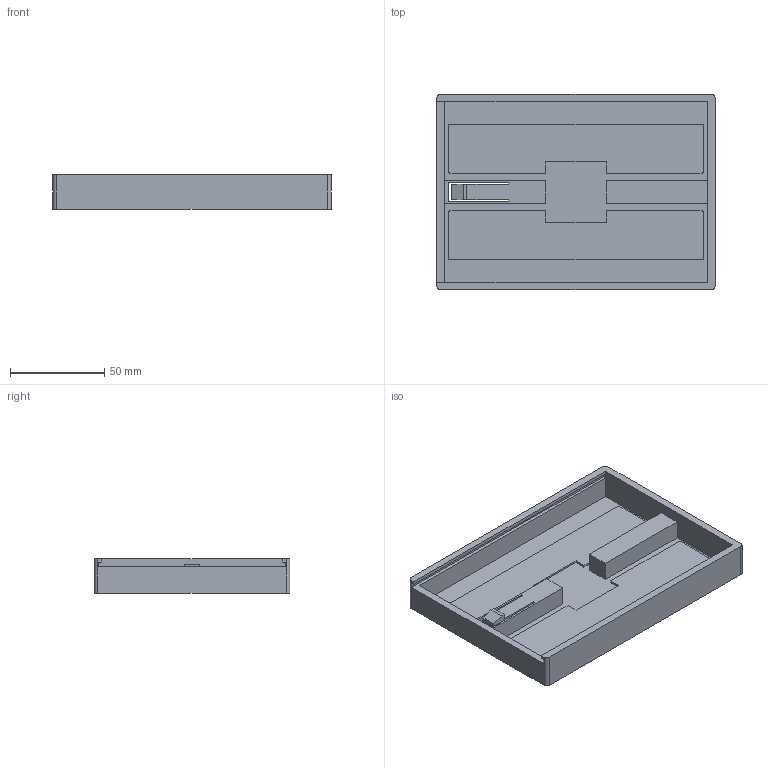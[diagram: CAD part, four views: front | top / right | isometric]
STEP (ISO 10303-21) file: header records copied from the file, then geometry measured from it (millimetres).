
FILE_DESCRIPTION(('Open CASCADE Model'),'2;1');
FILE_NAME('Open CASCADE Shape Model','2026-11-03T10:06:29',('Author'),( 'Open CASCADE'),'Open CASCADE STEP processor 8.0','build123d', 'Unknown');
FILE_SCHEMA(('AUTOMOTIVE_DESIGN { 1 0 10303 214 1 1 1 1 }'));
Length unit declared in the file: millimetre
Products named in the file (1): COMPOUND
Bounding box: 148 x 104 x 18.4 mm (x, y, z)
Volume: 76553 mm3; surface area: 51794.8 mm2
Topology: 1 solids, 1 shells, 67 faces, 189 edges, 126 vertices
Faces by surface type: plane 55, cylinder 12
Entity records: 4599 total; most frequent: CARTESIAN_POINT 888, DIRECTION 660, LINE 464, VECTOR 464, ORIENTED_EDGE 378, PCURVE 378, DEFINITIONAL_REPRESENTATION 378, EDGE_CURVE 189
